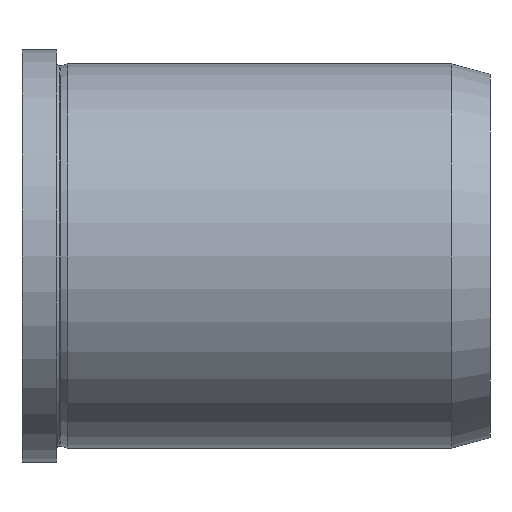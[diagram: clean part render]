
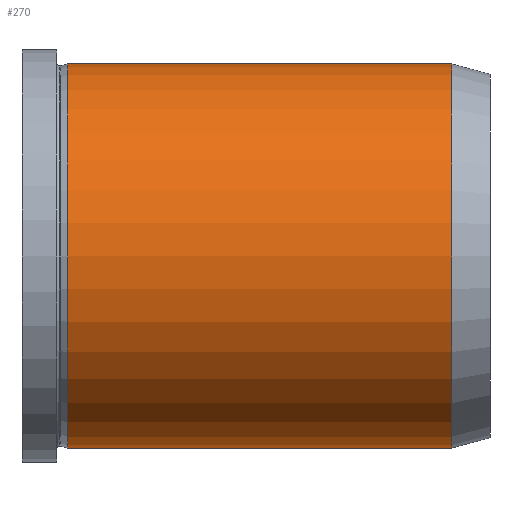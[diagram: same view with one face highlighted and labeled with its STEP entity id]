
A CAD part, left-side view. The second image highlights one B-rep face of the part: STEP entity #270.
In plain terms, the highlighted cylindrical face has radius 27.5 mm (diameter 55 mm), a partial arc.
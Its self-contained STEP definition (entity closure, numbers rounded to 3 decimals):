
#2 = LINE ( 'NONE', #204, #344 ) ;
#41 = DIRECTION ( 'NONE',  ( 0., -1., 0. ) ) ;
#60 = DIRECTION ( 'NONE',  ( 0., -1., 0. ) ) ;
#84 = CARTESIAN_POINT ( 'NONE',  ( 0., 60.478, 0. ) ) ;
#89 = DIRECTION ( 'NONE',  ( 0., 0., -1. ) ) ;
#102 = CARTESIAN_POINT ( 'NONE',  ( 0., 5.5, 0. ) ) ;
#103 = EDGE_CURVE ( 'NONE', #284, #222, #2, .T. ) ;
#120 = CARTESIAN_POINT ( 'NONE',  ( 0., 60.478, 27.5 ) ) ;
#127 = AXIS2_PLACEMENT_3D ( 'NONE', #84, #386, #389 ) ;
#143 = CARTESIAN_POINT ( 'NONE',  ( 0., 0., 0. ) ) ;
#149 = DIRECTION ( 'NONE',  ( 0., -1., 0. ) ) ;
#159 = EDGE_CURVE ( 'NONE', #596, #222, #540, .T. ) ;
#204 = CARTESIAN_POINT ( 'NONE',  ( 0., 0., -27.5 ) ) ;
#208 = DIRECTION ( 'NONE',  ( 0., -1., 0. ) ) ;
#222 = VERTEX_POINT ( 'NONE', #576 ) ;
#230 = VERTEX_POINT ( 'NONE', #120 ) ;
#262 = DIRECTION ( 'NONE',  ( 0., 0., -1. ) ) ;
#267 = CYLINDRICAL_SURFACE ( 'NONE', #620, 27.5 ) ;
#270 = ADVANCED_FACE ( 'NONE', ( #586 ), #267, .T. ) ;
#280 = CARTESIAN_POINT ( 'NONE',  ( 0., 60.478, -27.5 ) ) ;
#284 = VERTEX_POINT ( 'NONE', #280 ) ;
#289 = EDGE_LOOP ( 'NONE', ( #399, #337, #378, #339 ) ) ;
#337 = ORIENTED_EDGE ( 'NONE', *, *, #521, .T. ) ;
#339 = ORIENTED_EDGE ( 'NONE', *, *, #159, .F. ) ;
#344 = VECTOR ( 'NONE', #208, 1000. ) ;
#345 = CARTESIAN_POINT ( 'NONE',  ( 0., 0., 27.5 ) ) ;
#348 = VECTOR ( 'NONE', #41, 1000. ) ;
#373 = CIRCLE ( 'NONE', #127, 27.5 ) ;
#378 = ORIENTED_EDGE ( 'NONE', *, *, #103, .T. ) ;
#386 = DIRECTION ( 'NONE',  ( 0., -1., 0. ) ) ;
#389 = DIRECTION ( 'NONE',  ( 0., 0., -1. ) ) ;
#399 = ORIENTED_EDGE ( 'NONE', *, *, #506, .F. ) ;
#506 = EDGE_CURVE ( 'NONE', #230, #596, #555, .T. ) ;
#509 = CARTESIAN_POINT ( 'NONE',  ( 0., 5.5, 27.5 ) ) ;
#521 = EDGE_CURVE ( 'NONE', #230, #284, #373, .T. ) ;
#540 = CIRCLE ( 'NONE', #619, 27.5 ) ;
#555 = LINE ( 'NONE', #345, #348 ) ;
#576 = CARTESIAN_POINT ( 'NONE',  ( 0., 5.5, -27.5 ) ) ;
#586 = FACE_OUTER_BOUND ( 'NONE', #289, .T. ) ;
#596 = VERTEX_POINT ( 'NONE', #509 ) ;
#619 = AXIS2_PLACEMENT_3D ( 'NONE', #102, #60, #262 ) ;
#620 = AXIS2_PLACEMENT_3D ( 'NONE', #143, #149, #89 ) ;
